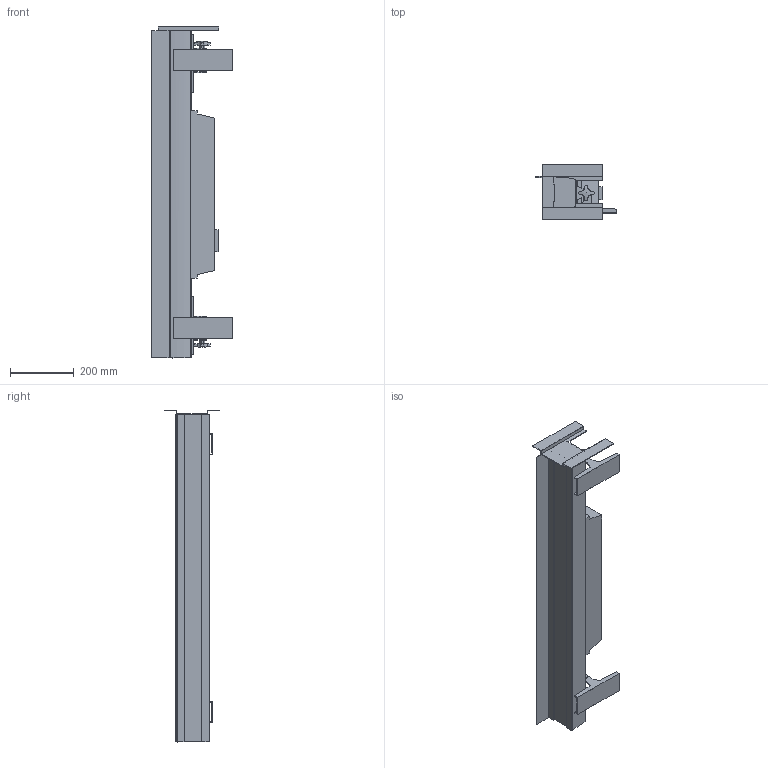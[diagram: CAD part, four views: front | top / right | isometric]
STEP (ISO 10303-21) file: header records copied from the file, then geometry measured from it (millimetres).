
FILE_DESCRIPTION(/* description */ (''),/* implementation_level */ '2;1');
FILE_NAME(/* name */ 'D:/dgooch/Documents/CADENG/PRO/Colorado Batten Q15/90/COLORado Batten Q15_90.step',/* time_stamp */ '2020-01-17T11:16:18-05:00',/* author */ (''),/* organization */ (''),/* preprocessor_version */ 'ST-DEVELOPER v18',/* originating_system */ 'Autodesk Translation Framework v8.12.0.6',/* authorisation */ '');
FILE_SCHEMA (('AUTOMOTIVE_DESIGN { 1 0 10303 214 3 1 1 }'));
Length unit declared in the file: millimetre
Products named in the file (14): COLORadoBattenQ15-V2; Bracket; ZHIJIADANBAN (1); ZHIJIA02_ASM (1); LED317-25 (1); LED317-26 (1); SS361SHOUNIELUOSI (1); Bracket(Mirror); ZHIJIADANBAN (1) (1); ZHIJIA02_ASM (1) (1); LED317-25 (1) (1); LED317-26 (1) (1); SS361SHOUNIELUOSI (1) (1); Main
Assembly tree (13 placements, depth 5):
  COLORadoBattenQ15-V2
    Bracket
      ZHIJIADANBAN (1)
      ZHIJIA02_ASM (1)
        LED317-25 (1)
        LED317-26 (1)
        SS361SHOUNIELUOSI (1)
      Bracket(Mirror)
        ZHIJIADANBAN (1) (1)
        ZHIJIA02_ASM (1) (1)
          LED317-25 (1) (1)
          LED317-26 (1) (1)
          SS361SHOUNIELUOSI (1) (1)
    Main
Bounding box: 255.56 x 170 x 1039.7 mm (x, y, z)
Volume: 10143722.8 mm3; surface area: 733276.4 mm2
Topology: 3 solids, 3 shells, 221 faces, 616 edges, 410 vertices
Faces by surface type: plane 186, cylinder 33, sphere 2
Full cylindrical faces by diameter (mm): 6 x6
Entity records: 7514 total; most frequent: CARTESIAN_POINT 1392, ORIENTED_EDGE 1228, DIRECTION 1181, EDGE_CURVE 614, LINE 527, VECTOR 527, VERTEX_POINT 410, AXIS2_PLACEMENT_3D 327
